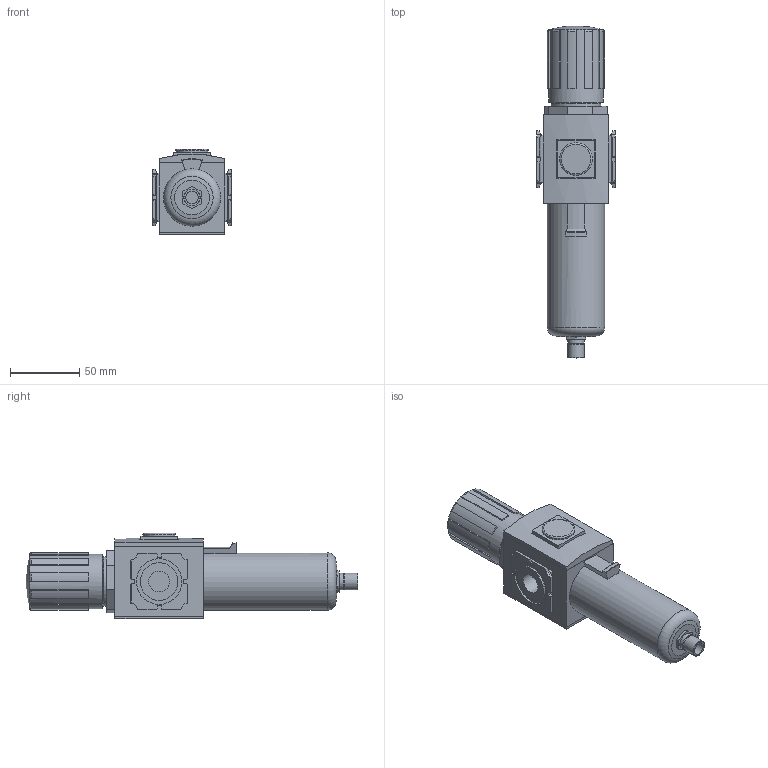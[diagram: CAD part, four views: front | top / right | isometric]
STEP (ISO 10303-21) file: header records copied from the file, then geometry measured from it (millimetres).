
FILE_DESCRIPTION( ( 'STEP AP214' ), '1' );
FILE_NAME( 'C:/Users/emc03072/Desktop/EAW/EAW3000-03FJ2.stp', '2026-08-14T16:18:18', ( 'License CC BY-ND 4.0' ), ( 'CADENAS' ), ' ', 'PARTsolutions', ' ' );
FILE_SCHEMA( ( 'AUTOMOTIVE_DESIGN { 1 0 10303 214 1 1 1 1 }' ) );
Length unit declared in the file: millimetre
Products named in the file (2): EAW3000-03FJ2; _EAW3000-03FJ2-body
Assembly tree (1 placements, depth 2):
  EAW3000-03FJ2
    _EAW3000-03FJ2-body
Bounding box: 57 x 239.64 x 61.6 mm (x, y, z)
Volume: 393623 mm3; surface area: 46949.2 mm2
Topology: 1 solids, 2 shells, 254 faces, 682 edges, 452 vertices
Faces by surface type: plane 192, cylinder 39, torus 16, cone 6, sphere 1
Full cylindrical faces by diameter (mm): 9 x1, 12 x2, 14.95 x2, 23.5 x1, 27.06 x2, 32.94 x2, 36 x2, 39.26 x1, 41.322 x1
Entity records: 9870 total; most frequent: CARTESIAN_POINT 1363, DIRECTION 1338, ORIENTED_EDGE 1312, EDGE_CURVE 656, LINE 486, VECTOR 486, VERTEX_POINT 451, AXIS2_PLACEMENT_3D 426
